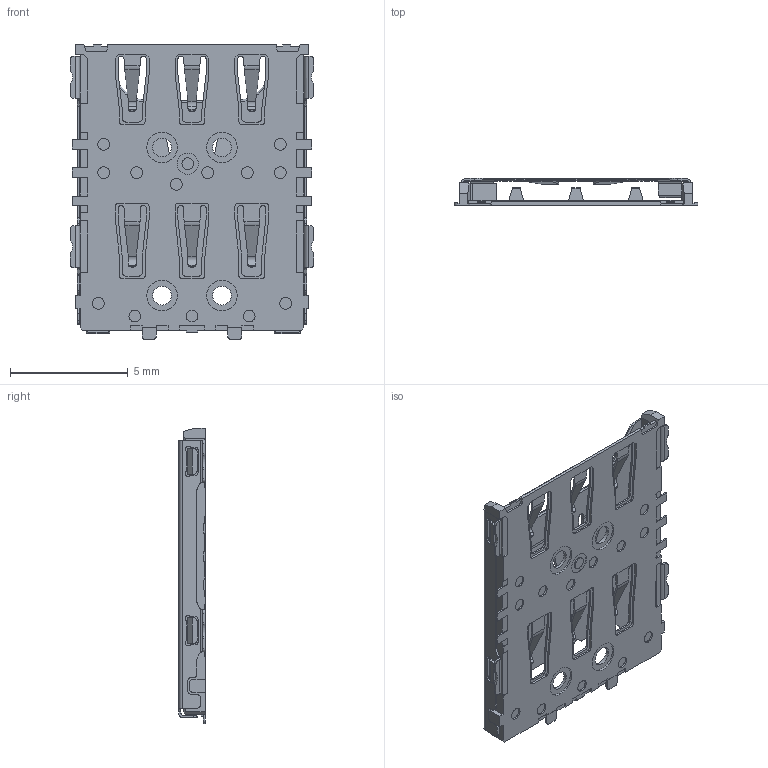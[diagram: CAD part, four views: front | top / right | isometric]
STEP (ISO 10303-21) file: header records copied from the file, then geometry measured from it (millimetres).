
FILE_DESCRIPTION (( 'STEP AP214' ), '1' );
FILE_NAME ('NS008-100.STEP', '2023-02-07T09:32:23', ( '' ), ( '' ), 'SwSTEP 2.0', 'SolidWorks 2021', '' );
FILE_SCHEMA (( 'AUTOMOTIVE_DESIGN' ));
Length unit declared in the file: millimetre
Products named in the file (1): NS008-100
Bounding box: 10.35 x 1.14 x 12.55 mm (x, y, z)
Volume: 34.8 mm3; surface area: 491.9 mm2
Topology: 2 solids, 2 shells, 1014 faces, 2826 edges, 1866 vertices
Faces by surface type: plane 633, cylinder 363, bspline 16, cone 2
Entity records: 33104 total; most frequent: CARTESIAN_POINT 6551, ORIENTED_EDGE 5652, DIRECTION 5419, EDGE_CURVE 2826, VECTOR 2023, LINE 2023, VERTEX_POINT 1866, AXIS2_PLACEMENT_3D 1698
